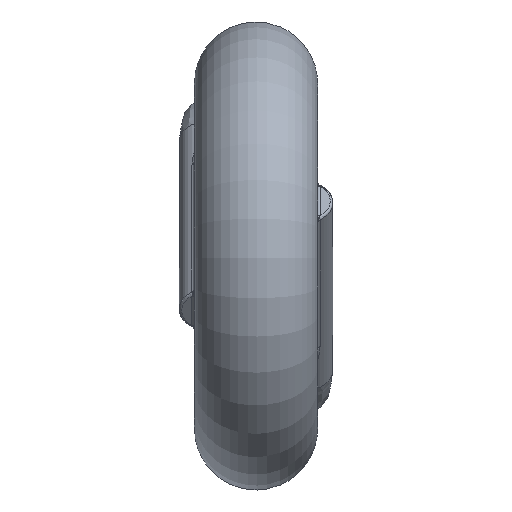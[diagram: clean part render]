
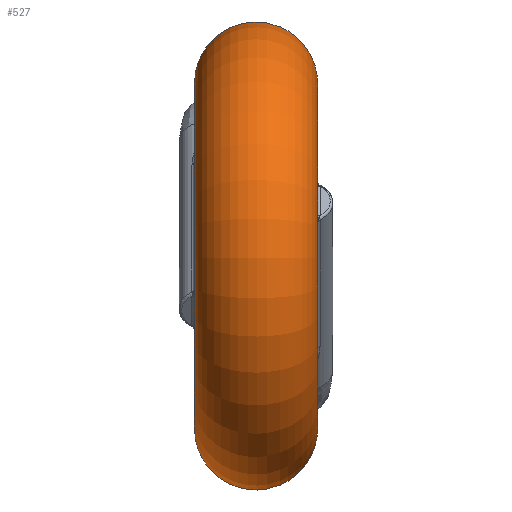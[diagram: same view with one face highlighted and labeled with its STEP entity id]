
A CAD part, left-side view. The second image highlights one B-rep face of the part: STEP entity #527.
In plain terms, the highlighted toroidal (fillet/blend) face has major radius 6.745 mm and minor radius 2.405 mm.
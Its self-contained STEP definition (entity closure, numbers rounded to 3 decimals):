
#20=TOROIDAL_SURFACE('',#583,6.745,2.405);
#74=B_SPLINE_CURVE_WITH_KNOTS('',3,(#1569,#1570,#1571,#1572,#1573,#1574,
#1575,#1576,#1577,#1578,#1579,#1580,#1581,#1582,#1583,#1584,#1585),
 .UNSPECIFIED.,.F.,.F.,(4,1,1,1,1,1,1,1,1,1,1,1,1,1,4),(-0.812,
-0.754,-0.696,-0.58,-0.522,
-0.464,-0.406,-0.348,-0.319,
-0.29,-0.232,-0.174,-0.116,
-0.058,0.),.UNSPECIFIED.);
#75=B_SPLINE_CURVE_WITH_KNOTS('',3,(#1593,#1594,#1595,#1596,#1597,#1598,
#1599,#1600,#1601,#1602,#1603,#1604,#1605,#1606,#1607),.UNSPECIFIED.,.F.,
 .F.,(4,1,1,1,1,1,1,1,1,1,1,1,4),(-0.812,-0.754,
-0.696,-0.58,-0.522,-0.464,
-0.406,-0.348,-0.29,-0.232,
-0.174,-0.116,0.),.UNSPECIFIED.);
#92=FACE_BOUND('',#163,.T.);
#122=FACE_OUTER_BOUND('',#162,.T.);
#162=EDGE_LOOP('',(#412,#413));
#163=EDGE_LOOP('',(#414,#415));
#205=CIRCLE('',#584,6.745);
#206=CIRCLE('',#585,6.745);
#241=VERTEX_POINT('',#1425);
#244=VERTEX_POINT('',#1550);
#245=VERTEX_POINT('',#1591);
#246=VERTEX_POINT('',#1592);
#304=EDGE_CURVE('',#244,#241,#74,.T.);
#307=EDGE_CURVE('',#245,#246,#75,.T.);
#308=EDGE_CURVE('',#245,#246,#205,.T.);
#309=EDGE_CURVE('',#244,#241,#206,.T.);
#412=ORIENTED_EDGE('',*,*,#307,.T.);
#413=ORIENTED_EDGE('',*,*,#308,.F.);
#414=ORIENTED_EDGE('',*,*,#304,.T.);
#415=ORIENTED_EDGE('',*,*,#309,.F.);
#527=ADVANCED_FACE('',(#122,#92),#20,.T.);
#583=AXIS2_PLACEMENT_3D('',#1590,#695,#696);
#584=AXIS2_PLACEMENT_3D('',#1608,#697,#698);
#585=AXIS2_PLACEMENT_3D('',#1609,#699,#700);
#695=DIRECTION('center_axis',(0.,1.,0.));
#696=DIRECTION('ref_axis',(1.,0.,0.));
#697=DIRECTION('center_axis',(0.,-1.,0.));
#698=DIRECTION('ref_axis',(-1.,0.,0.));
#699=DIRECTION('center_axis',(0.,1.,0.));
#700=DIRECTION('ref_axis',(-1.,0.,0.));
#1425=CARTESIAN_POINT('',(5.658,4.,3.672));
#1550=CARTESIAN_POINT('',(6.528,4.,1.697));
#1569=CARTESIAN_POINT('Ctrl Pts',(6.528,4.,1.697));
#1570=CARTESIAN_POINT('Ctrl Pts',(6.663,4.,1.818));
#1571=CARTESIAN_POINT('Ctrl Pts',(6.948,3.966,2.042));
#1572=CARTESIAN_POINT('Ctrl Pts',(7.529,3.755,2.41));
#1573=CARTESIAN_POINT('Ctrl Pts',(8.026,3.32,2.742));
#1574=CARTESIAN_POINT('Ctrl Pts',(8.234,2.801,3.224));
#1575=CARTESIAN_POINT('Ctrl Pts',(8.21,2.467,3.679));
#1576=CARTESIAN_POINT('Ctrl Pts',(8.018,2.297,4.2));
#1577=CARTESIAN_POINT('Ctrl Pts',(7.762,2.361,4.613));
#1578=CARTESIAN_POINT('Ctrl Pts',(7.532,2.538,4.854));
#1579=CARTESIAN_POINT('Ctrl Pts',(7.294,2.777,5.01));
#1580=CARTESIAN_POINT('Ctrl Pts',(7.005,3.141,5.014));
#1581=CARTESIAN_POINT('Ctrl Pts',(6.689,3.518,4.782));
#1582=CARTESIAN_POINT('Ctrl Pts',(6.38,3.792,4.434));
#1583=CARTESIAN_POINT('Ctrl Pts',(6.048,3.961,4.041));
#1584=CARTESIAN_POINT('Ctrl Pts',(5.793,4.,3.789));
#1585=CARTESIAN_POINT('Ctrl Pts',(5.658,4.,3.672));
#1590=CARTESIAN_POINT('Origin',(0.,1.595,0.));
#1591=CARTESIAN_POINT('',(6.528,-0.81,-1.697));
#1592=CARTESIAN_POINT('',(5.658,-0.81,-3.672));
#1593=CARTESIAN_POINT('Ctrl Pts',(6.528,-0.81,-1.697));
#1594=CARTESIAN_POINT('Ctrl Pts',(6.663,-0.81,-1.818));
#1595=CARTESIAN_POINT('Ctrl Pts',(6.948,-0.776,-2.042));
#1596=CARTESIAN_POINT('Ctrl Pts',(7.529,-0.565,-2.41));
#1597=CARTESIAN_POINT('Ctrl Pts',(8.026,-0.129,-2.742));
#1598=CARTESIAN_POINT('Ctrl Pts',(8.234,0.389,-3.224));
#1599=CARTESIAN_POINT('Ctrl Pts',(8.21,0.723,-3.679));
#1600=CARTESIAN_POINT('Ctrl Pts',(8.018,0.893,-4.2));
#1601=CARTESIAN_POINT('Ctrl Pts',(7.711,0.817,-4.696));
#1602=CARTESIAN_POINT('Ctrl Pts',(7.352,0.486,-5.011));
#1603=CARTESIAN_POINT('Ctrl Pts',(7.005,0.048,-5.014));
#1604=CARTESIAN_POINT('Ctrl Pts',(6.688,-0.328,-4.782));
#1605=CARTESIAN_POINT('Ctrl Pts',(6.277,-0.694,-4.317));
#1606=CARTESIAN_POINT('Ctrl Pts',(5.929,-0.81,-3.905));
#1607=CARTESIAN_POINT('Ctrl Pts',(5.658,-0.81,-3.672));
#1608=CARTESIAN_POINT('Origin',(0.,-0.81,0.));
#1609=CARTESIAN_POINT('Origin',(0.,4.,0.));
